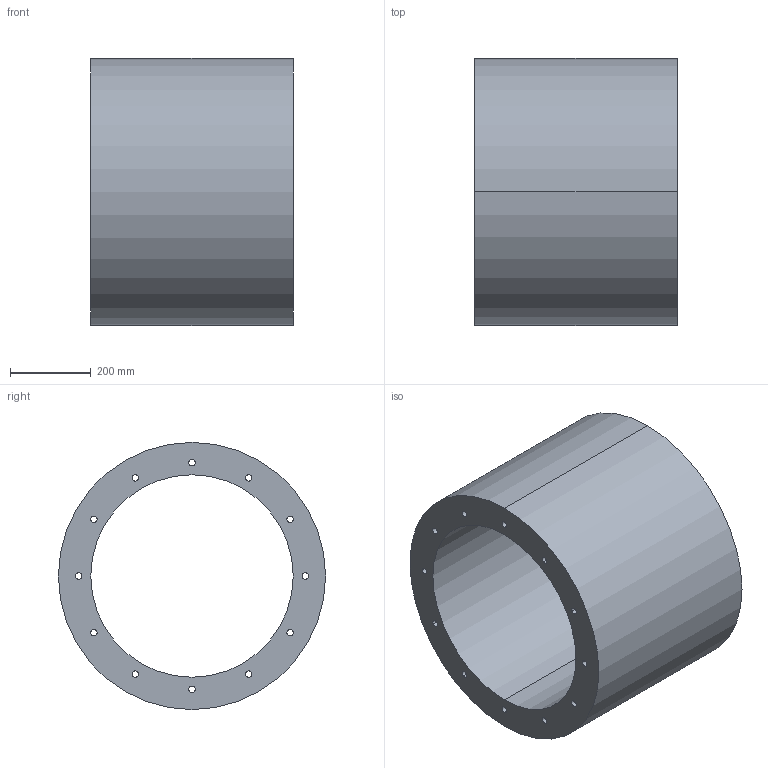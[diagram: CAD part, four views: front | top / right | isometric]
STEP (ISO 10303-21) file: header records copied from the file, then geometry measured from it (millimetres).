
FILE_DESCRIPTION(('STEP AP214'),'1');
FILE_NAME('accessory_5211810500.stp','2017-10-09T11:36:58',('TraceParts'),('TraceParts S.A.'),'Spatial InterOp 3D',' ',' ');
FILE_SCHEMA(('automotive_design'));
Length unit declared in the file: millimetre
Products named in the file (1): accessory_5211810500
Bounding box: 500 x 660 x 660 mm (x, y, z)
Volume: 71678578 mm3; surface area: 2410430.9 mm2
Topology: 1 solids, 1 shells, 30 faces, 84 edges, 56 vertices
Faces by surface type: cylinder 28, plane 2
Entity records: 1312 total; most frequent: DIRECTION 202, CARTESIAN_POINT 171, ORIENTED_EDGE 168, AXIS2_PLACEMENT_3D 87, EDGE_CURVE 84, EDGE_LOOP 56, VERTEX_POINT 56, CIRCLE 56
